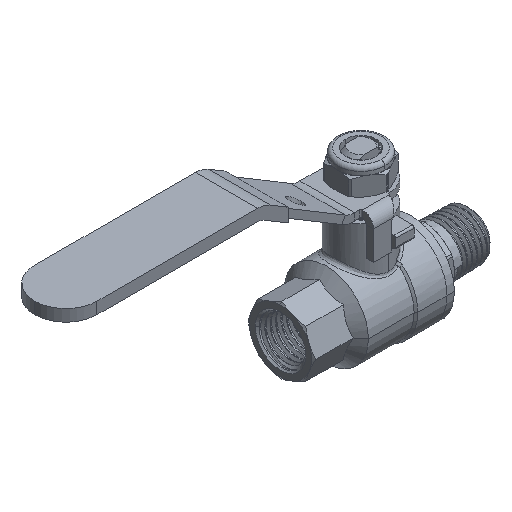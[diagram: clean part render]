
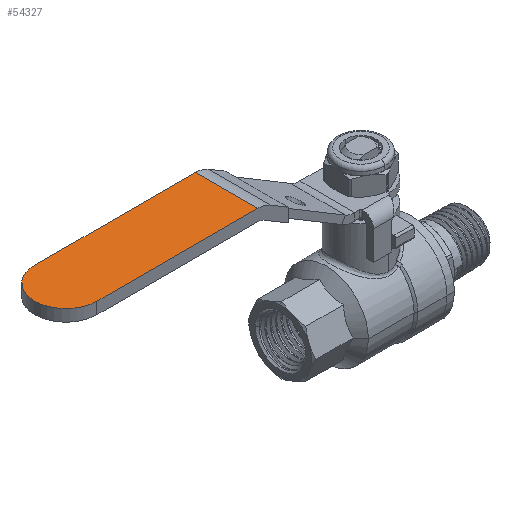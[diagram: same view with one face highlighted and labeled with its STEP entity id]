
A CAD part, isometric view. The second image highlights one B-rep face of the part: STEP entity #54327.
In plain terms, the highlighted planar face has unit normal (0, 0, 1).
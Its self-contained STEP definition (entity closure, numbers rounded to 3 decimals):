
#53811 = PLANE('',#53812);
#53812 = AXIS2_PLACEMENT_3D('',#53813,#53814,#53815);
#53813 = CARTESIAN_POINT('',(-36.668,-17.631,
    34.586));
#53814 = DIRECTION('',(0.,1.,0.));
#53815 = DIRECTION('',(0.,0.,-1.));
#53840 = CYLINDRICAL_SURFACE('',#53841,8.5);
#53841 = AXIS2_PLACEMENT_3D('',#53842,#53843,#53844);
#53842 = CARTESIAN_POINT('',(-80.604,-9.131,
    37.986));
#53843 = DIRECTION('',(0.,0.,-1.));
#53844 = DIRECTION('',(1.,0.,0.));
#53869 = CYLINDRICAL_SURFACE('',#53870,8.5);
#53870 = AXIS2_PLACEMENT_3D('',#53871,#53872,#53873);
#53871 = CARTESIAN_POINT('',(-80.604,-9.131,
    34.586));
#53872 = DIRECTION('',(0.,0.,1.));
#53873 = DIRECTION('',(-1.,0.,0.));
#53897 = PLANE('',#53898);
#53898 = AXIS2_PLACEMENT_3D('',#53899,#53900,#53901);
#53899 = CARTESIAN_POINT('',(-36.668,-0.631,
    34.586));
#53900 = DIRECTION('',(0.,1.,0.));
#53901 = DIRECTION('',(0.,0.,-1.));
#54217 = CYLINDRICAL_SURFACE('',#54218,6.6);
#54218 = AXIS2_PLACEMENT_3D('',#54219,#54220,#54221);
#54219 = CARTESIAN_POINT('',(-36.668,-17.631,
    34.586));
#54220 = DIRECTION('',(0.,1.,0.));
#54221 = DIRECTION('',(0.,0.,-1.));
#54255 = VERTEX_POINT('',#54256);
#54256 = CARTESIAN_POINT('',(-36.668,-0.631,
    41.186));
#54278 = EDGE_CURVE('',#54279,#54255,#54281,.T.);
#54279 = VERTEX_POINT('',#54280);
#54280 = CARTESIAN_POINT('',(-36.668,-17.631,
    41.186));
#54281 = SURFACE_CURVE('',#54282,(#54286,#54293),.PCURVE_S1.);
#54282 = LINE('',#54283,#54284);
#54283 = CARTESIAN_POINT('',(-36.668,-17.631,
    41.186));
#54284 = VECTOR('',#54285,1.);
#54285 = DIRECTION('',(0.,1.,0.));
#54286 = PCURVE('',#54217,#54287);
#54287 = DEFINITIONAL_REPRESENTATION('',(#54288),#54292);
#54288 = LINE('',#54289,#54290);
#54289 = CARTESIAN_POINT('',(3.142,0.));
#54290 = VECTOR('',#54291,1.);
#54291 = DIRECTION('',(0.,1.));
#54292 = ( GEOMETRIC_REPRESENTATION_CONTEXT(2) 
PARAMETRIC_REPRESENTATION_CONTEXT() REPRESENTATION_CONTEXT('2D SPACE',''
  ) );
#54293 = PCURVE('',#54294,#54299);
#54294 = PLANE('',#54295);
#54295 = AXIS2_PLACEMENT_3D('',#54296,#54297,#54298);
#54296 = CARTESIAN_POINT('',(-89.104,-17.631,
    41.186));
#54297 = DIRECTION('',(0.,0.,1.));
#54298 = DIRECTION('',(-1.,0.,0.));
#54299 = DEFINITIONAL_REPRESENTATION('',(#54300),#54304);
#54300 = LINE('',#54301,#54302);
#54301 = CARTESIAN_POINT('',(-52.436,0.));
#54302 = VECTOR('',#54303,1.);
#54303 = DIRECTION('',(0.,-1.));
#54304 = ( GEOMETRIC_REPRESENTATION_CONTEXT(2) 
PARAMETRIC_REPRESENTATION_CONTEXT() REPRESENTATION_CONTEXT('2D SPACE',''
  ) );
#54327 = ADVANCED_FACE('',(#54328),#54294,.T.);
#54328 = FACE_BOUND('',#54329,.T.);
#54329 = EDGE_LOOP('',(#54330,#54356,#54380,#54401,#54402));
#54330 = ORIENTED_EDGE('',*,*,#54331,.T.);
#54331 = EDGE_CURVE('',#54332,#54334,#54336,.T.);
#54332 = VERTEX_POINT('',#54333);
#54333 = CARTESIAN_POINT('',(-80.604,-0.631,
    41.186));
#54334 = VERTEX_POINT('',#54335);
#54335 = CARTESIAN_POINT('',(-89.104,-9.131,
    41.186));
#54336 = SURFACE_CURVE('',#54337,(#54342,#54349),.PCURVE_S1.);
#54337 = CIRCLE('',#54338,8.5);
#54338 = AXIS2_PLACEMENT_3D('',#54339,#54340,#54341);
#54339 = CARTESIAN_POINT('',(-80.604,-9.131,
    41.186));
#54340 = DIRECTION('',(0.,0.,1.));
#54341 = DIRECTION('',(-1.,0.,0.));
#54342 = PCURVE('',#54294,#54343);
#54343 = DEFINITIONAL_REPRESENTATION('',(#54344),#54348);
#54344 = CIRCLE('',#54345,8.5);
#54345 = AXIS2_PLACEMENT_2D('',#54346,#54347);
#54346 = CARTESIAN_POINT('',(-8.5,-8.5));
#54347 = DIRECTION('',(1.,0.));
#54348 = ( GEOMETRIC_REPRESENTATION_CONTEXT(2) 
PARAMETRIC_REPRESENTATION_CONTEXT() REPRESENTATION_CONTEXT('2D SPACE',''
  ) );
#54349 = PCURVE('',#53869,#54350);
#54350 = DEFINITIONAL_REPRESENTATION('',(#54351),#54355);
#54351 = LINE('',#54352,#54353);
#54352 = CARTESIAN_POINT('',(0.,6.6));
#54353 = VECTOR('',#54354,1.);
#54354 = DIRECTION('',(1.,0.));
#54355 = ( GEOMETRIC_REPRESENTATION_CONTEXT(2) 
PARAMETRIC_REPRESENTATION_CONTEXT() REPRESENTATION_CONTEXT('2D SPACE',''
  ) );
#54356 = ORIENTED_EDGE('',*,*,#54357,.T.);
#54357 = EDGE_CURVE('',#54334,#54358,#54360,.T.);
#54358 = VERTEX_POINT('',#54359);
#54359 = CARTESIAN_POINT('',(-80.604,-17.631,
    41.186));
#54360 = SURFACE_CURVE('',#54361,(#54366,#54373),.PCURVE_S1.);
#54361 = CIRCLE('',#54362,8.5);
#54362 = AXIS2_PLACEMENT_3D('',#54363,#54364,#54365);
#54363 = CARTESIAN_POINT('',(-80.604,-9.131,
    41.186));
#54364 = DIRECTION('',(0.,0.,1.));
#54365 = DIRECTION('',(-1.,0.,0.));
#54366 = PCURVE('',#54294,#54367);
#54367 = DEFINITIONAL_REPRESENTATION('',(#54368),#54372);
#54368 = CIRCLE('',#54369,8.5);
#54369 = AXIS2_PLACEMENT_2D('',#54370,#54371);
#54370 = CARTESIAN_POINT('',(-8.5,-8.5));
#54371 = DIRECTION('',(1.,0.));
#54372 = ( GEOMETRIC_REPRESENTATION_CONTEXT(2) 
PARAMETRIC_REPRESENTATION_CONTEXT() REPRESENTATION_CONTEXT('2D SPACE',''
  ) );
#54373 = PCURVE('',#53840,#54374);
#54374 = DEFINITIONAL_REPRESENTATION('',(#54375),#54379);
#54375 = LINE('',#54376,#54377);
#54376 = CARTESIAN_POINT('',(3.142,-3.2));
#54377 = VECTOR('',#54378,1.);
#54378 = DIRECTION('',(-1.,0.));
#54379 = ( GEOMETRIC_REPRESENTATION_CONTEXT(2) 
PARAMETRIC_REPRESENTATION_CONTEXT() REPRESENTATION_CONTEXT('2D SPACE',''
  ) );
#54380 = ORIENTED_EDGE('',*,*,#54381,.T.);
#54381 = EDGE_CURVE('',#54358,#54279,#54382,.T.);
#54382 = SURFACE_CURVE('',#54383,(#54387,#54394),.PCURVE_S1.);
#54383 = LINE('',#54384,#54385);
#54384 = CARTESIAN_POINT('',(-89.104,-17.631,
    41.186));
#54385 = VECTOR('',#54386,1.);
#54386 = DIRECTION('',(1.,0.,0.));
#54387 = PCURVE('',#54294,#54388);
#54388 = DEFINITIONAL_REPRESENTATION('',(#54389),#54393);
#54389 = LINE('',#54390,#54391);
#54390 = CARTESIAN_POINT('',(0.,-0.));
#54391 = VECTOR('',#54392,1.);
#54392 = DIRECTION('',(-1.,0.));
#54393 = ( GEOMETRIC_REPRESENTATION_CONTEXT(2) 
PARAMETRIC_REPRESENTATION_CONTEXT() REPRESENTATION_CONTEXT('2D SPACE',''
  ) );
#54394 = PCURVE('',#53811,#54395);
#54395 = DEFINITIONAL_REPRESENTATION('',(#54396),#54400);
#54396 = LINE('',#54397,#54398);
#54397 = CARTESIAN_POINT('',(-6.6,52.436));
#54398 = VECTOR('',#54399,1.);
#54399 = DIRECTION('',(0.,-1.));
#54400 = ( GEOMETRIC_REPRESENTATION_CONTEXT(2) 
PARAMETRIC_REPRESENTATION_CONTEXT() REPRESENTATION_CONTEXT('2D SPACE',''
  ) );
#54401 = ORIENTED_EDGE('',*,*,#54278,.T.);
#54402 = ORIENTED_EDGE('',*,*,#54403,.F.);
#54403 = EDGE_CURVE('',#54332,#54255,#54404,.T.);
#54404 = SURFACE_CURVE('',#54405,(#54409,#54416),.PCURVE_S1.);
#54405 = LINE('',#54406,#54407);
#54406 = CARTESIAN_POINT('',(-89.104,-0.631,
    41.186));
#54407 = VECTOR('',#54408,1.);
#54408 = DIRECTION('',(1.,0.,0.));
#54409 = PCURVE('',#54294,#54410);
#54410 = DEFINITIONAL_REPRESENTATION('',(#54411),#54415);
#54411 = LINE('',#54412,#54413);
#54412 = CARTESIAN_POINT('',(0.,-17.));
#54413 = VECTOR('',#54414,1.);
#54414 = DIRECTION('',(-1.,0.));
#54415 = ( GEOMETRIC_REPRESENTATION_CONTEXT(2) 
PARAMETRIC_REPRESENTATION_CONTEXT() REPRESENTATION_CONTEXT('2D SPACE',''
  ) );
#54416 = PCURVE('',#53897,#54417);
#54417 = DEFINITIONAL_REPRESENTATION('',(#54418),#54422);
#54418 = LINE('',#54419,#54420);
#54419 = CARTESIAN_POINT('',(-6.6,52.436));
#54420 = VECTOR('',#54421,1.);
#54421 = DIRECTION('',(0.,-1.));
#54422 = ( GEOMETRIC_REPRESENTATION_CONTEXT(2) 
PARAMETRIC_REPRESENTATION_CONTEXT() REPRESENTATION_CONTEXT('2D SPACE',''
  ) );
